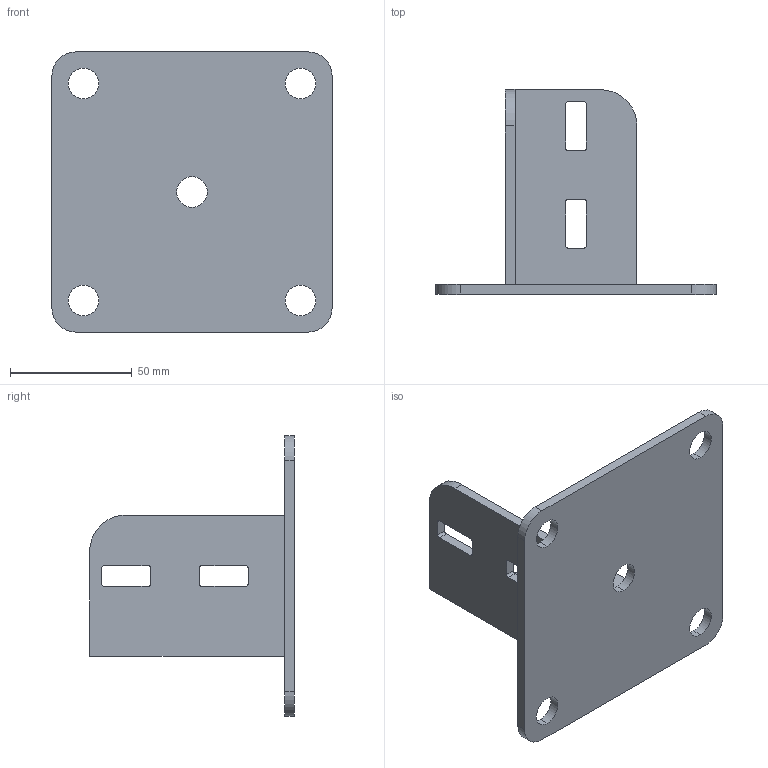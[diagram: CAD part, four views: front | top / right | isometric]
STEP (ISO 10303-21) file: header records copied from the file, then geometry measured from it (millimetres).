
FILE_DESCRIPTION (( 'STEP AP203' ), '1' );
FILE_NAME ('Ñáîðêà.STEP', '2017-04-25T09:30:15', ( '' ), ( '' ), 'SwSTEP 2.0', 'SolidWorks 2014', '' );
FILE_SCHEMA (( 'CONFIG_CONTROL_DESIGN' ));
Length unit declared in the file: millimetre
Products named in the file (4): îïîðà; 鸙_﨩1; 鸙_﨩2; 栖闉罻
Assembly tree (3 placements, depth 2):
  栖闉罻
    îïîðà
    鸙_﨩1
    鸙_﨩2
Bounding box: 115 x 84 x 115 mm (x, y, z)
Volume: 81569.7 mm3; surface area: 46318.6 mm2
Topology: 3 solids, 3 shells, 66 faces, 180 edges, 120 vertices
Faces by surface type: plane 34, cylinder 32
Entity records: 2558 total; most frequent: DIRECTION 388, CARTESIAN_POINT 372, ORIENTED_EDGE 360, EDGE_CURVE 180, AXIS2_PLACEMENT_3D 136, VERTEX_POINT 120, LINE 116, VECTOR 116
